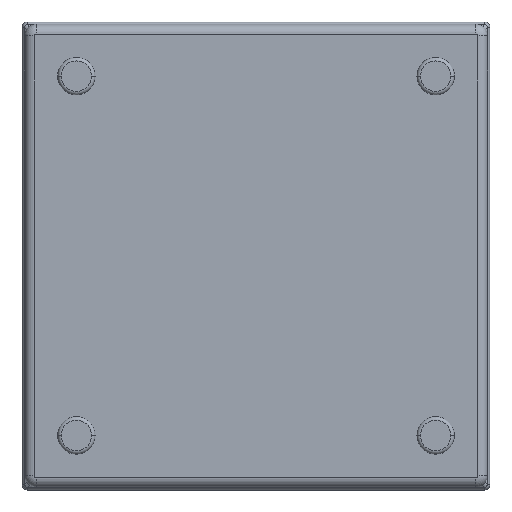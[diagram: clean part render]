
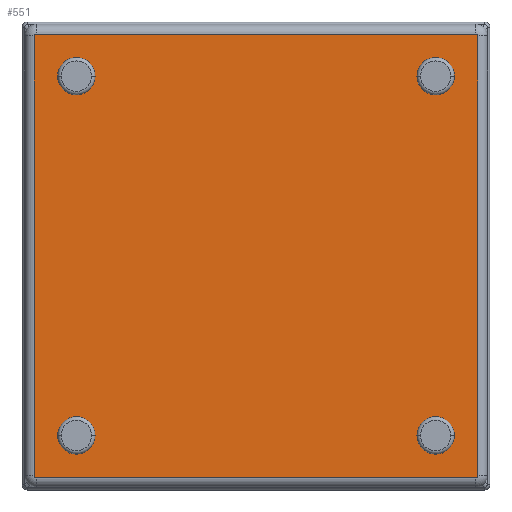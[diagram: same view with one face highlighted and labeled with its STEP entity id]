
A CAD part, top view. The second image highlights one B-rep face of the part: STEP entity #551.
In plain terms, the highlighted planar face has unit normal (0, 0, 1).
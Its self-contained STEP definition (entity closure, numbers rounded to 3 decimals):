
#551 = ADVANCED_FACE ( 'NONE', ( #2141, #2156, #2127, #2228, #2115 ), #5888, .F. ) ;
#635 = ORIENTED_EDGE ( 'NONE', *, *, #3235, .T. ) ;
#671 = VERTEX_POINT ( 'NONE', #3483 ) ;
#979 = CARTESIAN_POINT ( 'NONE',  ( -94., -94.8, 0. ) ) ;
#1355 = DIRECTION ( 'NONE',  ( -1., 0., 0. ) ) ;
#1441 = CARTESIAN_POINT ( 'NONE',  ( 68.8, -76.8, 0. ) ) ;
#1478 = CIRCLE ( 'NONE', #13134, 8. ) ;
#1620 = DIRECTION ( 'NONE',  ( 0., -1., 0. ) ) ;
#1686 = CARTESIAN_POINT ( 'NONE',  ( -94.8, -94., 0. ) ) ;
#1835 = DIRECTION ( 'NONE',  ( -1., 0., 0. ) ) ;
#1859 = DIRECTION ( 'NONE',  ( 0., 0., 1. ) ) ;
#1883 = CARTESIAN_POINT ( 'NONE',  ( -94., 94., 0. ) ) ;
#2086 = CARTESIAN_POINT ( 'NONE',  ( -84.8, -76.8, 0. ) ) ;
#2094 = CARTESIAN_POINT ( 'NONE',  ( -68.8, 76.8, 0. ) ) ;
#2115 = FACE_OUTER_BOUND ( 'NONE', #8187, .T. ) ;
#2127 = FACE_BOUND ( 'NONE', #9061, .T. ) ;
#2141 = FACE_BOUND ( 'NONE', #8936, .T. ) ;
#2144 = CIRCLE ( 'NONE', #5788, 0.8 ) ;
#2156 = FACE_BOUND ( 'NONE', #8859, .T. ) ;
#2228 = FACE_BOUND ( 'NONE', #9124, .T. ) ;
#2391 = AXIS2_PLACEMENT_3D ( 'NONE', #3994, #3980, #3949 ) ;
#2421 = CARTESIAN_POINT ( 'NONE',  ( -94., 94.8, 0. ) ) ;
#2438 = DIRECTION ( 'NONE',  ( -1., 0., 0. ) ) ;
#2522 = DIRECTION ( 'NONE',  ( -1., 0., 0. ) ) ;
#2523 = DIRECTION ( 'NONE',  ( 0., 0., 1. ) ) ;
#2539 = CARTESIAN_POINT ( 'NONE',  ( 94., 94., 0. ) ) ;
#2775 = DIRECTION ( 'NONE',  ( 0., 1., 0. ) ) ;
#2778 = EDGE_CURVE ( 'NONE', #10784, #10251, #11770, .T. ) ;
#2839 = EDGE_CURVE ( 'NONE', #6547, #10106, #10334, .T. ) ;
#2866 = CARTESIAN_POINT ( 'NONE',  ( 94.8, 94., 0. ) ) ;
#2879 = EDGE_CURVE ( 'NONE', #13394, #11310, #10228, .T. ) ;
#2888 = CARTESIAN_POINT ( 'NONE',  ( 94.8, -94., 0. ) ) ;
#2894 = DIRECTION ( 'NONE',  ( -1., 0., 0. ) ) ;
#2912 = DIRECTION ( 'NONE',  ( 0., 0., 1. ) ) ;
#2916 = CARTESIAN_POINT ( 'NONE',  ( 94., -94., 0. ) ) ;
#2924 = EDGE_CURVE ( 'NONE', #3209, #671, #10078, .T. ) ;
#2957 = CIRCLE ( 'NONE', #7168, 8. ) ;
#2982 = ORIENTED_EDGE ( 'NONE', *, *, #3083, .T. ) ;
#3062 = EDGE_CURVE ( 'NONE', #3865, #4077, #9820, .T. ) ;
#3083 = EDGE_CURVE ( 'NONE', #4077, #6694, #9738, .T. ) ;
#3128 = EDGE_CURVE ( 'NONE', #6694, #5276, #9639, .T. ) ;
#3163 = EDGE_CURVE ( 'NONE', #5276, #11710, #9544, .T. ) ;
#3209 = VERTEX_POINT ( 'NONE', #2094 ) ;
#3235 = EDGE_CURVE ( 'NONE', #11710, #6823, #9390, .T. ) ;
#3275 = EDGE_CURVE ( 'NONE', #6823, #6461, #9277, .T. ) ;
#3483 = CARTESIAN_POINT ( 'NONE',  ( -84.8, 76.8, 0. ) ) ;
#3609 = DIRECTION ( 'NONE',  ( -1., 0., 0. ) ) ;
#3611 = DIRECTION ( 'NONE',  ( 0., 0., -1. ) ) ;
#3623 = CARTESIAN_POINT ( 'NONE',  ( -76.8, 76.8, 0. ) ) ;
#3865 = VERTEX_POINT ( 'NONE', #10894 ) ;
#3949 = DIRECTION ( 'NONE',  ( -1., 0., 0. ) ) ;
#3953 = DIRECTION ( 'NONE',  ( -1., 0., 0. ) ) ;
#3955 = DIRECTION ( 'NONE',  ( 0., 0., -1. ) ) ;
#3979 = CARTESIAN_POINT ( 'NONE',  ( 76.8, 76.8, 0. ) ) ;
#3980 = DIRECTION ( 'NONE',  ( 0., 0., -1. ) ) ;
#3994 = CARTESIAN_POINT ( 'NONE',  ( 76.8, -76.8, 0. ) ) ;
#4077 = VERTEX_POINT ( 'NONE', #2888 ) ;
#4150 = DIRECTION ( 'NONE',  ( -1., 0., 0. ) ) ;
#4176 = DIRECTION ( 'NONE',  ( -1., 0., 0. ) ) ;
#4177 = DIRECTION ( 'NONE',  ( 0., 0., -1. ) ) ;
#4190 = CARTESIAN_POINT ( 'NONE',  ( 76.8, 76.8, 0. ) ) ;
#4194 = DIRECTION ( 'NONE',  ( 0., 0., -1. ) ) ;
#4196 = CARTESIAN_POINT ( 'NONE',  ( 76.8, -76.8, 0. ) ) ;
#4394 = CARTESIAN_POINT ( 'NONE',  ( 68.8, 76.8, 0. ) ) ;
#4537 = DIRECTION ( 'NONE',  ( -1., 0., 0. ) ) ;
#4545 = ORIENTED_EDGE ( 'NONE', *, *, #2778, .T. ) ;
#4563 = DIRECTION ( 'NONE',  ( 0., 0., -1. ) ) ;
#4579 = CARTESIAN_POINT ( 'NONE',  ( -76.8, -76.8, 0. ) ) ;
#4887 = ORIENTED_EDGE ( 'NONE', *, *, #7251, .T. ) ;
#5126 = AXIS2_PLACEMENT_3D ( 'NONE', #5847, #5945, #5797 ) ;
#5276 = VERTEX_POINT ( 'NONE', #7649 ) ;
#5612 = ORIENTED_EDGE ( 'NONE', *, *, #6487, .T. ) ;
#5788 = AXIS2_PLACEMENT_3D ( 'NONE', #9113, #10388, #1355 ) ;
#5797 = DIRECTION ( 'NONE',  ( -1., 0., 0. ) ) ;
#5847 = CARTESIAN_POINT ( 'NONE',  ( 94., 94., 0. ) ) ;
#5888 = PLANE ( 'NONE',  #5126 ) ;
#5945 = DIRECTION ( 'NONE',  ( 0., 0., -1. ) ) ;
#5970 = ORIENTED_EDGE ( 'NONE', *, *, #3128, .T. ) ;
#6021 = CARTESIAN_POINT ( 'NONE',  ( 94., -94.8, 0. ) ) ;
#6064 = AXIS2_PLACEMENT_3D ( 'NONE', #4190, #4177, #4150 ) ;
#6141 = VERTEX_POINT ( 'NONE', #979 ) ;
#6461 = VERTEX_POINT ( 'NONE', #12769 ) ;
#6473 = AXIS2_PLACEMENT_3D ( 'NONE', #1883, #1859, #1835 ) ;
#6487 = EDGE_CURVE ( 'NONE', #671, #3209, #2957, .T. ) ;
#6488 = AXIS2_PLACEMENT_3D ( 'NONE', #2539, #2523, #2522 ) ;
#6534 = AXIS2_PLACEMENT_3D ( 'NONE', #2916, #2912, #2894 ) ;
#6547 = VERTEX_POINT ( 'NONE', #12097 ) ;
#6579 = CIRCLE ( 'NONE', #6064, 8. ) ;
#6650 = AXIS2_PLACEMENT_3D ( 'NONE', #3623, #3611, #3609 ) ;
#6674 = ORIENTED_EDGE ( 'NONE', *, *, #3275, .T. ) ;
#6694 = VERTEX_POINT ( 'NONE', #10627 ) ;
#6739 = AXIS2_PLACEMENT_3D ( 'NONE', #3979, #3955, #3953 ) ;
#6822 = AXIS2_PLACEMENT_3D ( 'NONE', #4196, #4194, #4176 ) ;
#6823 = VERTEX_POINT ( 'NONE', #9295 ) ;
#6843 = AXIS2_PLACEMENT_3D ( 'NONE', #4579, #4563, #4537 ) ;
#7168 = AXIS2_PLACEMENT_3D ( 'NONE', #12524, #12513, #12453 ) ;
#7251 = EDGE_CURVE ( 'NONE', #11310, #13394, #6579, .T. ) ;
#7649 = CARTESIAN_POINT ( 'NONE',  ( 94., 94.8, 0. ) ) ;
#7928 = EDGE_CURVE ( 'NONE', #10251, #10784, #1478, .T. ) ;
#8187 = EDGE_LOOP ( 'NONE', ( #11361, #2982, #5970, #11692, #635, #6674, #9545, #11044 ) ) ;
#8221 = ORIENTED_EDGE ( 'NONE', *, *, #2879, .T. ) ;
#8505 = EDGE_CURVE ( 'NONE', #10106, #6547, #10456, .T. ) ;
#8859 = EDGE_LOOP ( 'NONE', ( #10376, #13090 ) ) ;
#8922 = CARTESIAN_POINT ( 'NONE',  ( -94., 94.8, 0. ) ) ;
#8936 = EDGE_LOOP ( 'NONE', ( #12786, #4545 ) ) ;
#9061 = EDGE_LOOP ( 'NONE', ( #4887, #8221 ) ) ;
#9113 = CARTESIAN_POINT ( 'NONE',  ( -94., -94., 0. ) ) ;
#9124 = EDGE_LOOP ( 'NONE', ( #11027, #5612 ) ) ;
#9277 = LINE ( 'NONE', #1686, #9335 ) ;
#9295 = CARTESIAN_POINT ( 'NONE',  ( -94.8, 94., 0. ) ) ;
#9335 = VECTOR ( 'NONE', #1620, 1000. ) ;
#9390 = CIRCLE ( 'NONE', #6473, 0.8 ) ;
#9515 = VECTOR ( 'NONE', #2438, 1000. ) ;
#9544 = LINE ( 'NONE', #2421, #9515 ) ;
#9545 = ORIENTED_EDGE ( 'NONE', *, *, #11539, .T. ) ;
#9639 = CIRCLE ( 'NONE', #6488, 0.8 ) ;
#9692 = VECTOR ( 'NONE', #2775, 1000. ) ;
#9717 = CARTESIAN_POINT ( 'NONE',  ( 84.8, 76.8, 0. ) ) ;
#9738 = LINE ( 'NONE', #2866, #9692 ) ;
#9820 = CIRCLE ( 'NONE', #6534, 0.8 ) ;
#10078 = CIRCLE ( 'NONE', #6650, 8. ) ;
#10106 = VERTEX_POINT ( 'NONE', #1441 ) ;
#10228 = CIRCLE ( 'NONE', #6739, 8. ) ;
#10251 = VERTEX_POINT ( 'NONE', #2086 ) ;
#10271 = CARTESIAN_POINT ( 'NONE',  ( -68.8, -76.8, 0. ) ) ;
#10303 = EDGE_CURVE ( 'NONE', #6141, #3865, #11124, .T. ) ;
#10334 = CIRCLE ( 'NONE', #6822, 8. ) ;
#10373 = DIRECTION ( 'NONE',  ( 1., 0., 0. ) ) ;
#10376 = ORIENTED_EDGE ( 'NONE', *, *, #2839, .T. ) ;
#10388 = DIRECTION ( 'NONE',  ( 0., 0., 1. ) ) ;
#10456 = CIRCLE ( 'NONE', #2391, 8. ) ;
#10627 = CARTESIAN_POINT ( 'NONE',  ( 94.8, 94., 0. ) ) ;
#10784 = VERTEX_POINT ( 'NONE', #10271 ) ;
#10814 = DIRECTION ( 'NONE',  ( -1., 0., 0. ) ) ;
#10833 = DIRECTION ( 'NONE',  ( 0., 0., -1. ) ) ;
#10861 = CARTESIAN_POINT ( 'NONE',  ( -76.8, -76.8, 0. ) ) ;
#10894 = CARTESIAN_POINT ( 'NONE',  ( 94., -94.8, 0. ) ) ;
#11027 = ORIENTED_EDGE ( 'NONE', *, *, #2924, .T. ) ;
#11044 = ORIENTED_EDGE ( 'NONE', *, *, #10303, .T. ) ;
#11124 = LINE ( 'NONE', #6021, #12559 ) ;
#11310 = VERTEX_POINT ( 'NONE', #4394 ) ;
#11361 = ORIENTED_EDGE ( 'NONE', *, *, #3062, .T. ) ;
#11539 = EDGE_CURVE ( 'NONE', #6461, #6141, #2144, .T. ) ;
#11692 = ORIENTED_EDGE ( 'NONE', *, *, #3163, .T. ) ;
#11710 = VERTEX_POINT ( 'NONE', #8922 ) ;
#11770 = CIRCLE ( 'NONE', #6843, 8. ) ;
#12097 = CARTESIAN_POINT ( 'NONE',  ( 84.8, -76.8, 0. ) ) ;
#12453 = DIRECTION ( 'NONE',  ( -1., 0., 0. ) ) ;
#12513 = DIRECTION ( 'NONE',  ( 0., 0., -1. ) ) ;
#12524 = CARTESIAN_POINT ( 'NONE',  ( -76.8, 76.8, 0. ) ) ;
#12559 = VECTOR ( 'NONE', #10373, 1000. ) ;
#12769 = CARTESIAN_POINT ( 'NONE',  ( -94.8, -94., 0. ) ) ;
#12786 = ORIENTED_EDGE ( 'NONE', *, *, #7928, .T. ) ;
#13090 = ORIENTED_EDGE ( 'NONE', *, *, #8505, .T. ) ;
#13134 = AXIS2_PLACEMENT_3D ( 'NONE', #10861, #10833, #10814 ) ;
#13394 = VERTEX_POINT ( 'NONE', #9717 ) ;
